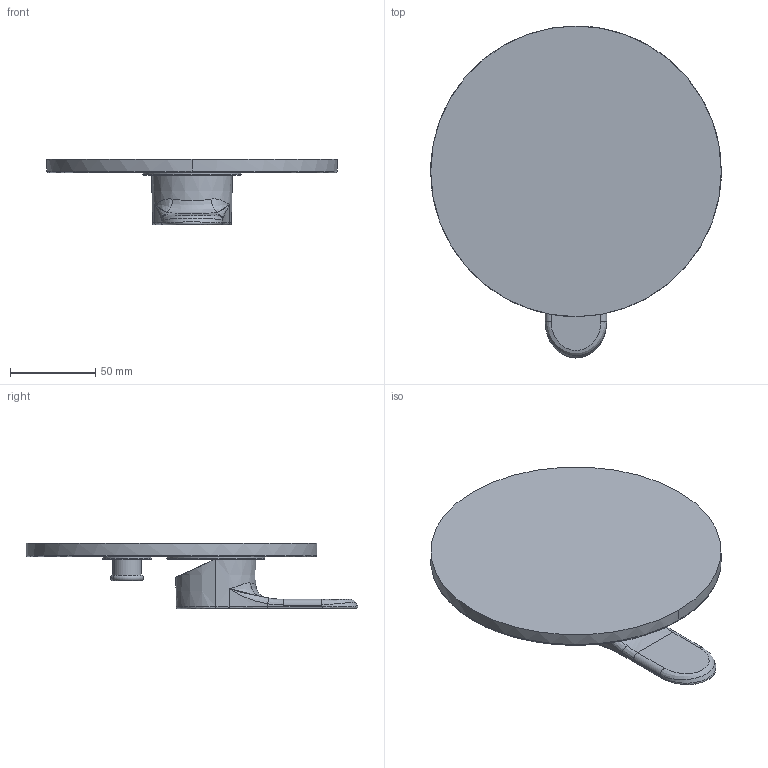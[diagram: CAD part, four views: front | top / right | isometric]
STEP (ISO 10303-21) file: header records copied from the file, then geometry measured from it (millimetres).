
FILE_DESCRIPTION (( 'STEP AP203' ), '1' );
FILE_NAME ('AANC027CR x architetti.STEP', '2023-10-27T06:11:56', ( '' ), ( '' ), 'SwSTEP 2.0', 'SolidWorks 2020', '' );
FILE_SCHEMA (( 'CONFIG_CONTROL_DESIGN' ));
Length unit declared in the file: millimetre
Products named in the file (1): AANC027CR x architetti
Bounding box: 170 x 194.14 x 38.44 mm (x, y, z)
Volume: 240948.8 mm3; surface area: 63368.3 mm2
Topology: 1 solids, 1 shells, 70 faces, 170 edges, 105 vertices
Faces by surface type: bspline 26, cylinder 24, plane 11, cone 7, torus 2
Entity records: 3670 total; most frequent: CARTESIAN_POINT 2082, ORIENTED_EDGE 336, DIRECTION 301, EDGE_CURVE 168, AXIS2_PLACEMENT_3D 132, VERTEX_POINT 105, CIRCLE 87, EDGE_LOOP 77
